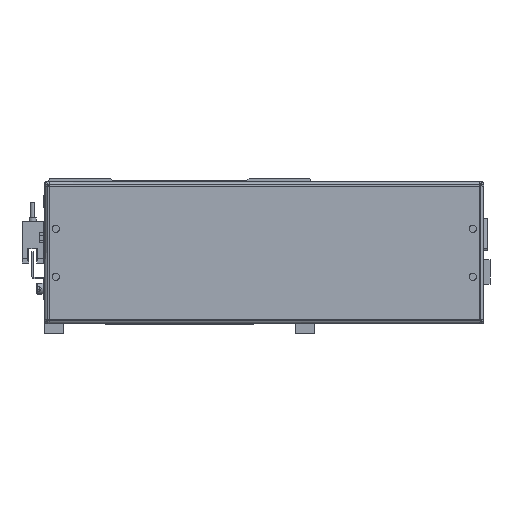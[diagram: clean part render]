
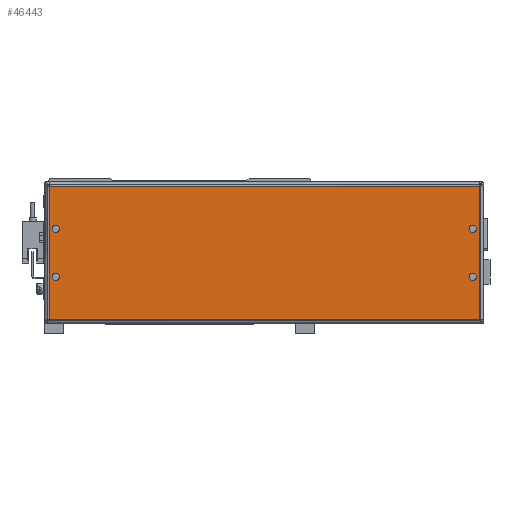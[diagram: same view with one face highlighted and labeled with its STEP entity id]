
A CAD part, front view. The second image highlights one B-rep face of the part: STEP entity #46443.
In plain terms, the highlighted planar face has unit normal (0, -1, 0) as drawn and (0, 0, 1) by its records, which use the part's own axes.
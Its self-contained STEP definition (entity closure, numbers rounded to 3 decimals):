
#8 = DIRECTION ( 'NONE',  ( -1., 0., 0. ) ) ;
#240 = VERTEX_POINT ( 'NONE', #50059 ) ;
#315 = VERTEX_POINT ( 'NONE', #38566 ) ;
#459 = EDGE_CURVE ( 'NONE', #54426, #27633, #26882, .T. ) ;
#580 = EDGE_CURVE ( 'NONE', #315, #20655, #38356, .T. ) ;
#1098 = DIRECTION ( 'NONE',  ( 1., 0., 0. ) ) ;
#1653 = CARTESIAN_POINT ( 'NONE',  ( -92.753, -61.269, 63. ) ) ;
#1853 = CARTESIAN_POINT ( 'NONE',  ( -92.753, -61.269, 63. ) ) ;
#2325 = DIRECTION ( 'NONE',  ( 1., 0., 0. ) ) ;
#2515 = CARTESIAN_POINT ( 'NONE',  ( -97.046, -34.506, 63. ) ) ;
#2725 = CARTESIAN_POINT ( 'NONE',  ( -95.003, -61.269, 63. ) ) ;
#4612 = DIRECTION ( 'NONE',  ( 1., 0., 0. ) ) ;
#4802 = DIRECTION ( 'NONE',  ( 0., 0., -1. ) ) ;
#5290 = PLANE ( 'NONE',  #55612 ) ;
#6907 = VECTOR ( 'NONE', #2325, 1000. ) ;
#6945 = VERTEX_POINT ( 'NONE', #19992 ) ;
#7216 = EDGE_CURVE ( 'NONE', #50597, #29006, #38048, .T. ) ;
#7467 = EDGE_CURVE ( 'NONE', #27778, #11006, #44099, .T. ) ;
#7512 = FACE_BOUND ( 'NONE', #18320, .T. ) ;
#8168 = FACE_BOUND ( 'NONE', #31694, .T. ) ;
#8590 = DIRECTION ( 'NONE',  ( 1., 0., 0. ) ) ;
#8945 = CARTESIAN_POINT ( 'NONE',  ( 168.247, -61.269, 63. ) ) ;
#9412 = AXIS2_PLACEMENT_3D ( 'NONE', #1653, #24013, #36988 ) ;
#9489 = DIRECTION ( 'NONE',  ( 0., 0., -1. ) ) ;
#10200 = DIRECTION ( 'NONE',  ( 0., 0., 1. ) ) ;
#11006 = VERTEX_POINT ( 'NONE', #35389 ) ;
#11727 = CARTESIAN_POINT ( 'NONE',  ( 172.51, -118.032, 63. ) ) ;
#12721 = ORIENTED_EDGE ( 'NONE', *, *, #7467, .F. ) ;
#13233 = EDGE_CURVE ( 'NONE', #29006, #50597, #52429, .T. ) ;
#17272 = CARTESIAN_POINT ( 'NONE',  ( -97.016, -34.506, 63. ) ) ;
#17676 = CARTESIAN_POINT ( 'NONE',  ( 168.247, -91.269, 63. ) ) ;
#18320 = EDGE_LOOP ( 'NONE', ( #24829, #26783 ) ) ;
#19526 = CIRCLE ( 'NONE', #25615, 2.25 ) ;
#19823 = DIRECTION ( 'NONE',  ( 0., 0., -1. ) ) ;
#19992 = CARTESIAN_POINT ( 'NONE',  ( 170.497, -91.269, 63. ) ) ;
#20655 = VERTEX_POINT ( 'NONE', #2725 ) ;
#21231 = ORIENTED_EDGE ( 'NONE', *, *, #459, .F. ) ;
#22717 = DIRECTION ( 'NONE',  ( 1., 0., 0. ) ) ;
#22937 = CARTESIAN_POINT ( 'NONE',  ( -71.103, -65.809, 63. ) ) ;
#23190 = VERTEX_POINT ( 'NONE', #27560 ) ;
#24013 = DIRECTION ( 'NONE',  ( 0., 0., -1. ) ) ;
#24434 = CARTESIAN_POINT ( 'NONE',  ( 165.997, -61.269, 63. ) ) ;
#24656 = EDGE_CURVE ( 'NONE', #240, #6945, #41474, .T. ) ;
#24829 = ORIENTED_EDGE ( 'NONE', *, *, #45383, .T. ) ;
#25149 = FACE_BOUND ( 'NONE', #26264, .T. ) ;
#25615 = AXIS2_PLACEMENT_3D ( 'NONE', #52365, #25859, #4612 ) ;
#25859 = DIRECTION ( 'NONE',  ( 0., 0., -1. ) ) ;
#25945 = AXIS2_PLACEMENT_3D ( 'NONE', #8945, #9489, #39184 ) ;
#26023 = CIRCLE ( 'NONE', #52550, 2.25 ) ;
#26264 = EDGE_LOOP ( 'NONE', ( #45730, #38681 ) ) ;
#26310 = CARTESIAN_POINT ( 'NONE',  ( 172.54, -118.032, 63. ) ) ;
#26408 = CARTESIAN_POINT ( 'NONE',  ( 168.247, -61.269, 63. ) ) ;
#26783 = ORIENTED_EDGE ( 'NONE', *, *, #24656, .T. ) ;
#26882 = LINE ( 'NONE', #26310, #50445 ) ;
#27560 = CARTESIAN_POINT ( 'NONE',  ( -95.003, -91.269, 63. ) ) ;
#27564 = CIRCLE ( 'NONE', #53991, 2.25 ) ;
#27633 = VERTEX_POINT ( 'NONE', #33295 ) ;
#27778 = VERTEX_POINT ( 'NONE', #17272 ) ;
#28480 = DIRECTION ( 'NONE',  ( 1., 0., 0. ) ) ;
#28764 = LINE ( 'NONE', #34171, #49013 ) ;
#29006 = VERTEX_POINT ( 'NONE', #24434 ) ;
#29247 = DIRECTION ( 'NONE',  ( 0., -1., 0. ) ) ;
#30060 = CARTESIAN_POINT ( 'NONE',  ( -90.503, -91.269, 63. ) ) ;
#30846 = DIRECTION ( 'NONE',  ( 1., 0., 0. ) ) ;
#31205 = ORIENTED_EDGE ( 'NONE', *, *, #580, .T. ) ;
#31694 = EDGE_LOOP ( 'NONE', ( #45594, #55070 ) ) ;
#32209 = EDGE_LOOP ( 'NONE', ( #12721, #53875, #21231, #54981 ) ) ;
#32768 = LINE ( 'NONE', #44342, #38221 ) ;
#33290 = EDGE_CURVE ( 'NONE', #23190, #51440, #19526, .T. ) ;
#33295 = CARTESIAN_POINT ( 'NONE',  ( -97.016, -118.032, 63. ) ) ;
#33647 = CARTESIAN_POINT ( 'NONE',  ( 170.497, -61.269, 63. ) ) ;
#33857 = FACE_OUTER_BOUND ( 'NONE', #32209, .T. ) ;
#34171 = CARTESIAN_POINT ( 'NONE',  ( 172.51, -34.476, 63. ) ) ;
#34465 = DIRECTION ( 'NONE',  ( 0., 0., -1. ) ) ;
#35389 = CARTESIAN_POINT ( 'NONE',  ( 172.51, -34.506, 63. ) ) ;
#35842 = DIRECTION ( 'NONE',  ( 0., 1., 0. ) ) ;
#36775 = AXIS2_PLACEMENT_3D ( 'NONE', #17676, #34465, #8590 ) ;
#36988 = DIRECTION ( 'NONE',  ( 1., 0., 0. ) ) ;
#37000 = ORIENTED_EDGE ( 'NONE', *, *, #50685, .T. ) ;
#37360 = CARTESIAN_POINT ( 'NONE',  ( -92.753, -91.269, 63. ) ) ;
#38048 = CIRCLE ( 'NONE', #49436, 2.25 ) ;
#38221 = VECTOR ( 'NONE', #35842, 1000. ) ;
#38356 = CIRCLE ( 'NONE', #9412, 2.25 ) ;
#38566 = CARTESIAN_POINT ( 'NONE',  ( -90.503, -61.269, 63. ) ) ;
#38681 = ORIENTED_EDGE ( 'NONE', *, *, #33290, .T. ) ;
#39184 = DIRECTION ( 'NONE',  ( 1., 0., 0. ) ) ;
#39862 = CARTESIAN_POINT ( 'NONE',  ( 168.247, -91.269, 63. ) ) ;
#40245 = DIRECTION ( 'NONE',  ( 1., 0., 0. ) ) ;
#40314 = EDGE_CURVE ( 'NONE', #11006, #54426, #28764, .T. ) ;
#40508 = EDGE_CURVE ( 'NONE', #27633, #27778, #32768, .T. ) ;
#41474 = CIRCLE ( 'NONE', #54559, 2.25 ) ;
#41599 = EDGE_CURVE ( 'NONE', #51440, #23190, #26023, .T. ) ;
#43306 = EDGE_LOOP ( 'NONE', ( #31205, #37000 ) ) ;
#44099 = LINE ( 'NONE', #2515, #6907 ) ;
#44342 = CARTESIAN_POINT ( 'NONE',  ( -97.016, -118.062, 63. ) ) ;
#45383 = EDGE_CURVE ( 'NONE', #6945, #240, #45741, .T. ) ;
#45594 = ORIENTED_EDGE ( 'NONE', *, *, #7216, .T. ) ;
#45730 = ORIENTED_EDGE ( 'NONE', *, *, #41599, .T. ) ;
#45741 = CIRCLE ( 'NONE', #36775, 2.25 ) ;
#46443 = ADVANCED_FACE ( 'NONE', ( #8168, #7512, #25149, #52751, #33857 ), #5290, .T. ) ;
#47783 = DIRECTION ( 'NONE',  ( 0., 0., -1. ) ) ;
#49013 = VECTOR ( 'NONE', #29247, 1000. ) ;
#49436 = AXIS2_PLACEMENT_3D ( 'NONE', #26408, #4802, #30846 ) ;
#50059 = CARTESIAN_POINT ( 'NONE',  ( 165.997, -91.269, 63. ) ) ;
#50445 = VECTOR ( 'NONE', #8, 1000. ) ;
#50597 = VERTEX_POINT ( 'NONE', #33647 ) ;
#50685 = EDGE_CURVE ( 'NONE', #20655, #315, #27564, .T. ) ;
#51440 = VERTEX_POINT ( 'NONE', #30060 ) ;
#52365 = CARTESIAN_POINT ( 'NONE',  ( -92.753, -91.269, 63. ) ) ;
#52429 = CIRCLE ( 'NONE', #25945, 2.25 ) ;
#52550 = AXIS2_PLACEMENT_3D ( 'NONE', #37360, #19823, #28480 ) ;
#52751 = FACE_BOUND ( 'NONE', #43306, .T. ) ;
#53590 = DIRECTION ( 'NONE',  ( 0., 0., -1. ) ) ;
#53875 = ORIENTED_EDGE ( 'NONE', *, *, #40508, .F. ) ;
#53991 = AXIS2_PLACEMENT_3D ( 'NONE', #1853, #53590, #1098 ) ;
#54426 = VERTEX_POINT ( 'NONE', #11727 ) ;
#54559 = AXIS2_PLACEMENT_3D ( 'NONE', #39862, #47783, #22717 ) ;
#54981 = ORIENTED_EDGE ( 'NONE', *, *, #40314, .F. ) ;
#55070 = ORIENTED_EDGE ( 'NONE', *, *, #13233, .T. ) ;
#55612 = AXIS2_PLACEMENT_3D ( 'NONE', #22937, #10200, #40245 ) ;
